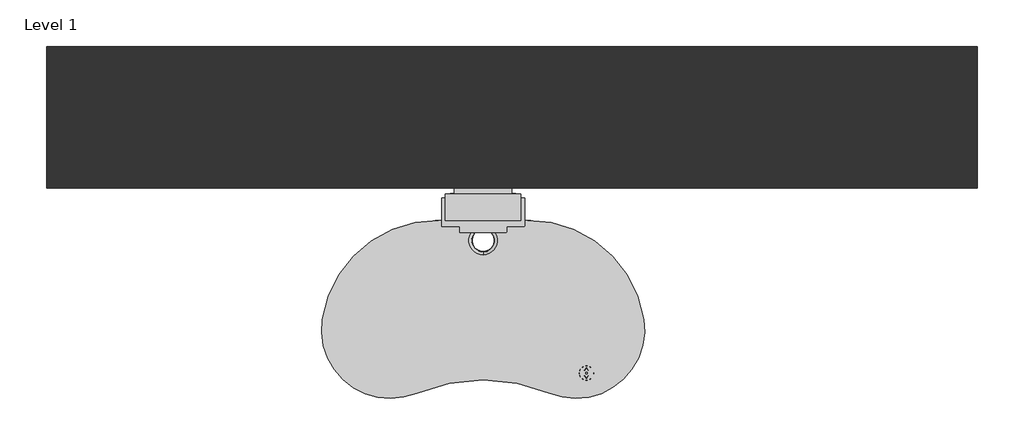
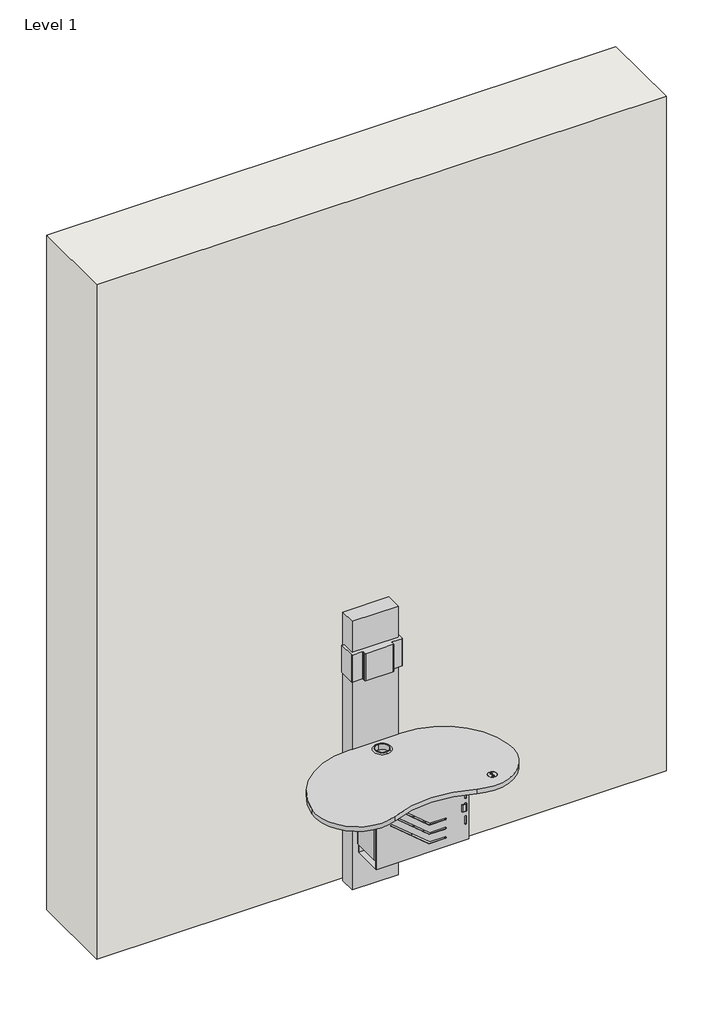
# One storey: 1 furniture element, 1 wall.
"""IFC4 building model written with IfcOpenShell, lengths in millimetres."""

from ifc_helpers import new_model, si_unit, origin, origin_with_axes, place, context, project, spatial, polyline, outline, extrude, transform, mapped, element, save
from components import type_1_df42e8d9

model = new_model("IFC4")

# Units and contexts
model_context = context("Model", 3, world=origin())
ifc_project = project(units=[si_unit("LENGTHUNIT", "METRE", prefix="MILLI")], contexts=[model_context])

# Site, building, storey
site = spatial("IfcSite", under=ifc_project)
building = spatial("IfcBuilding", under=site)
storey = spatial("IfcBuildingStorey", under=building, Name="Level 1", Elevation=0.0)

# Furniture
placement = place(None, origin())
type_1_shape = type_1_df42e8d9(model_context)
element("IfcFurniture", 1, ObjectType="BK Library - Diarium : Type 1", at=placement, inside=storey, context=model_context, shape_type="MappedRepresentation", body=[
    mapped(type_1_shape, transform((-2915.0111566, 2497.114393, 0.0), x_axis=(-1.0, 0.0, 0.0), y_axis=(0.0, -1.0, 0.0), z_axis=(0.0, 0.0, 1.0))),
])

# Wall
element("IfcWall", 2, ObjectType="Exterior - Brick on Mtl. Stud", at=placement, inside=storey, context=model_context, shape_type="SweptSolid", body=[
    extrude(outline(polyline([(-1818.6451132, 2322.114393), (-4118.6451132, 2322.114393), (-4118.6451132, 2672.114393), (-1818.6451132, 2672.114393), (-1818.6451132, 2322.114393)])), origin_with_axes(), (0.0, 0.0, 1.0), 2880.0132523),
])

save(model, "model.ifc")
